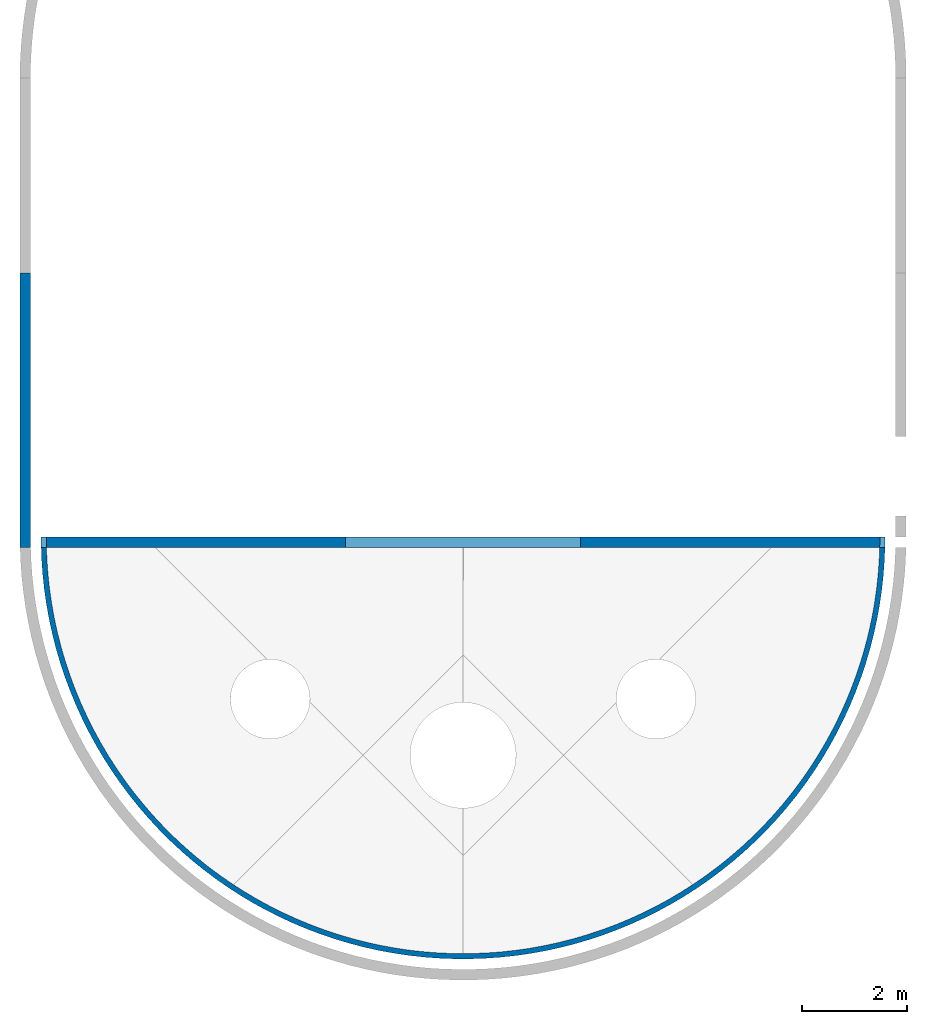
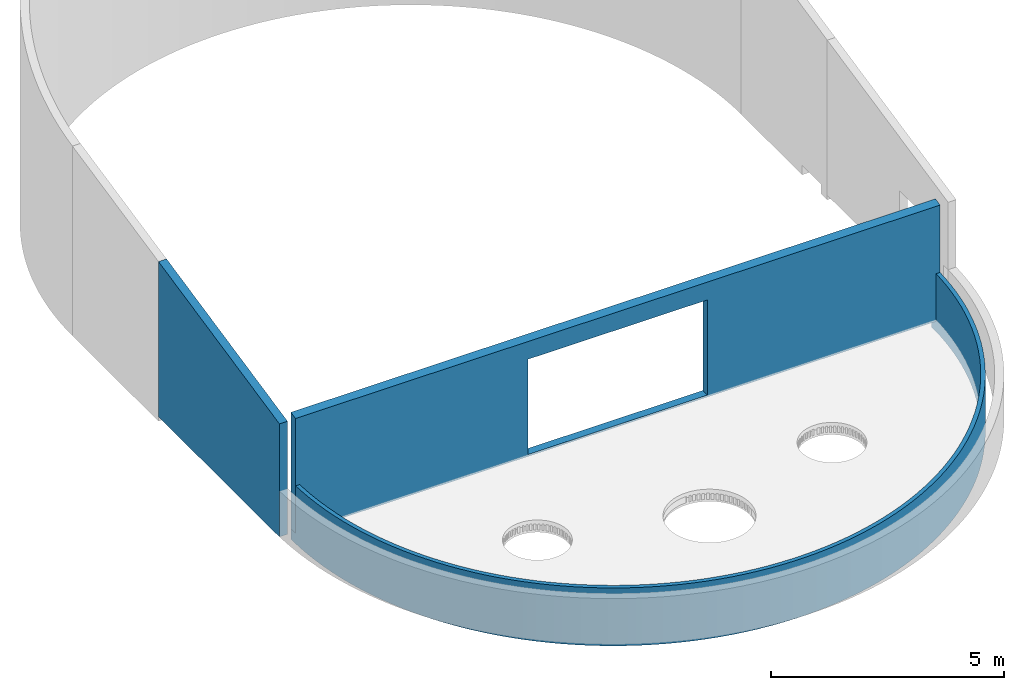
# One storey, part 8 of 10: 3 walls, 1 opening.
"""IFC4 building model written with IfcOpenShell, lengths in millimetres."""

from ifc_helpers import new_model, entity, si_unit, converted_unit, derived_unit, direction, frame, origin_with_axes, place, context, subcontext, project, spatial, polygons, material, constituent, constituent_set, type_object, element, save


model = new_model("IFC4")

# Units and contexts
model_context = context("Model", 3, precision=0.01, world=origin_with_axes(), true_north=direction((0.0, 1.0)))
body_context = subcontext(model_context, "Body", "Model", "MODEL_VIEW")
ifc_project = project(units=[si_unit("LENGTHUNIT", "METRE", prefix="MILLI"), si_unit("AREAUNIT", "SQUARE_METRE"), si_unit("VOLUMEUNIT", "CUBIC_METRE"), converted_unit("PLANEANGLEUNIT", "DEGREE", entity("IfcPlaneAngleMeasure", 0.0174532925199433), si_unit("PLANEANGLEUNIT", "RADIAN"), dimensions=[0, 0, 0, 0, 0, 0, 0]), converted_unit("TIMEUNIT", "Year", entity("IfcTimeMeasure", 31557600.0), si_unit("TIMEUNIT", "SECOND"), dimensions=[0, 0, 1, 0, 0, 0, 0]), si_unit("MASSUNIT", "GRAM", prefix="KILO"), si_unit("THERMODYNAMICTEMPERATUREUNIT", "DEGREE_CELSIUS"), si_unit("LUMINOUSINTENSITYUNIT", "LUMEN"), si_unit("ENERGYUNIT", "JOULE", prefix="MEGA"), derived_unit("THERMALCONDUCTANCEUNIT", [(si_unit("POWERUNIT", "WATT"), 1), (si_unit("LENGTHUNIT", "METRE"), -1), (si_unit("THERMODYNAMICTEMPERATUREUNIT", "KELVIN"), -1)]), derived_unit("SPECIFICHEATCAPACITYUNIT", [(si_unit("ENERGYUNIT", "JOULE"), 1), (si_unit("MASSUNIT", "GRAM", prefix="KILO"), -1), (si_unit("THERMODYNAMICTEMPERATUREUNIT", "KELVIN"), -1)]), derived_unit("MASSDENSITYUNIT", [(si_unit("MASSUNIT", "GRAM", prefix="KILO"), 1), (si_unit("VOLUMEUNIT", "CUBIC_METRE"), -1)])], contexts=[model_context])

# Site, building, storey
site_placement = place(None, origin_with_axes())
site = spatial("IfcSite", under=ifc_project, at=site_placement, Name="Exteriér", CompositionType="ELEMENT")
building_placement = place(site_placement, origin_with_axes())
building = spatial("IfcBuilding", under=site, at=building_placement, Name="Univerzitní lezecké centrum", CompositionType="ELEMENT")
storey_placement = place(building_placement, frame((0.0, 0.0, 9600.000000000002), z_axis=(0.0, 0.0, 1.0), x_axis=(1.0, 0.0, 0.0)))
storey = spatial("IfcBuildingStorey", under=building, at=storey_placement, Name="4.NP", CompositionType="ELEMENT", Elevation=9600.0)

# Wall, opening
ifc_material_1 = material(Name="Tepelná izolace - minerální vata - obvodová izolace")
ifc_constituent_1 = constituent(ifc_material_1, Name="Tepelná izolace - minerální vata - obvodová izolace")
ifc_constituent_set_1 = constituent_set(constituents=[ifc_constituent_1], Name="Obvodová tepelná izolace")
wall_type_1 = type_object("IfcWallType", Name="Obvodová tepelná izolace 200", PredefinedType="NOTDEFINED")
wall_1_placement = place(storey_placement, frame((-5750.148351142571, -299.9999999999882, -51.00000000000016), z_axis=(0.0, 0.0, 1.0), x_axis=(1.0, 0.0, 0.0)))
wall_1 = element("IfcWall", 1, at=wall_1_placement, inside=storey, type_object=wall_type_1, material=ifc_constituent_set_1, Name="St03", PredefinedType="NOTDEFINED", context=body_context, shape_type="Tessellation", body=[
    polygons([(202.0594851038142, -200.0000000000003, 0.0), (16197.33742363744, -200.0000000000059, 0.0), (16197.33742363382, -200.0000000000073, 1251.0), (16200.0, -200.0000000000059, 1251.0), (16200.0, -200.0000000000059, 3017.37703782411), (200.0000086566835, -200.0000000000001, 3017.37703782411), (199.9999999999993, -200.0000000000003, 1251.0), (202.0594851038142, -200.0000000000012, 1251.0), (5974.900487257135, -200.0000000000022, 51.00000000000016), (5974.900487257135, -200.0000000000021, 2551.0), (10424.90048725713, -200.0000000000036, 2551.0), (10424.90048725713, -200.0000000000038, 51.00000000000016), (199.9999999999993, -142.0078008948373, 0.0), (200.0000000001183, 0.0, 0.0), (16199.99999999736, 0.0, 0.0), (16200.0, 0.0, 1251.0), (16200.0, 0.0, 3059.888350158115), (200.0000183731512, 0.0, 3059.888350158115), (200.0000000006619, -142.0078008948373, 1251.0), (5974.900487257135, 0.0, 51.00000000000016), (5974.900487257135, 0.0, 2551.0), (10424.90048725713, 0.0, 2551.0), (10424.90048725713, 0.0, 51.00000000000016)], [[[1, 2, 3, 4, 5, 6, 7, 8], [9, 10, 11, 12]], [[1, 13, 14, 15, 2]], [[16, 3, 2, 15]], [[16, 4, 3]], [[17, 5, 4, 16]], [[17, 18, 6, 5]], [[18, 14, 13, 19, 7, 6]], [[7, 19, 8]], [[8, 19, 13, 1]], [[20, 21, 10, 9]], [[21, 22, 11, 10]], [[22, 23, 12, 11]], [[23, 20, 9, 12]], [[14, 18, 17, 16, 15], [20, 23, 22, 21]]], closed=True),
])
opening_placement = place(wall_1_placement, frame((8199.900487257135, 0.0, 51.00000000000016), z_axis=(0.0, 0.0, 1.0), x_axis=(1.0, 0.0, 0.0)))
element("IfcOpeningElement", 2, at=opening_placement, cuts=wall_1, context=body_context, identifier="Reference", shape_type="Tessellation", body=[
    polygons([(-2225.0, -201.0000000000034, 2500.0), (-2225.0, -201.0000000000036, 0.0), (2225.0, -201.0000000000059, 0.0), (2225.0, -201.0000000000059, 2500.0), (-2225.0, 1.000000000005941, 2500.0), (-2225.0, 1.000000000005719, 0.0), (2225.0, 1.000000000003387, 0.0), (2225.0, 1.000000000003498, 2500.0)], [[[1, 2, 3, 4]], [[5, 6, 2, 1]], [[6, 7, 3, 2]], [[7, 8, 4, 3]], [[8, 5, 1, 4]], [[7, 6, 5, 8]]], closed=True),
])

# Walls
ifc_constituent_2 = constituent(ifc_material_1, Name="Tepelná izolace - minerální vata - obvodová izolace")
ifc_constituent_set_2 = constituent_set(constituents=[ifc_constituent_2], Name="Obvodová tepelná izolace")
wall_2_placement = place(storey_placement, frame((-5750.148351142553, 4700.000000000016, 0.0), z_axis=(0.0, 0.0, 1.0), x_axis=(0.0, -1.0, 0.0)))
element("IfcWall", 3, at=wall_2_placement, inside=storey, type_object=wall_type_1, material=ifc_constituent_set_2, Name="St01", PredefinedType="NOTDEFINED", context=body_context, shape_type="Tessellation", body=[
    polygons([(0.0, -199.9999999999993, 0.0), (0.0, -199.9999847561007, 4071.671158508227), (0.0, 0.0, 4071.671158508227), (0.0, 0.0, 0.0), (5200.000000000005, -200.0000000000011, 1199.999999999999), (5200.000000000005, -199.9999847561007, 2966.37703782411), (5200.000000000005, -200.0000000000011, 0.0), (5200.000000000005, 6.213433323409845e-06, 2966.377037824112), (5200.000000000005, 0.0, 1199.999999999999), (5200.000000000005, 0.0, 0.0)], [[[1, 2, 3, 4]], [[5, 6, 2, 1, 7]], [[8, 3, 2, 6]], [[4, 3, 8, 9, 10]], [[1, 4, 10, 7]], [[9, 8, 6, 5]], [[7, 10, 9, 5]]], closed=True),
])
ifc_material_2 = material(Name="Tepelná izolace - PIR")
ifc_constituent_3 = constituent(ifc_material_2, Name="Tepelná izolace - PIR")
ifc_constituent_set_3 = constituent_set(constituents=[ifc_constituent_3], Name="Obvodová tepelná izolace - atika")
wall_type_2 = type_object("IfcWallType", Name="Obvodová tepelná izolace - atika 100", PredefinedType="NOTDEFINED")
wall_3_placement = place(storey_placement, frame((-5450.148351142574, -299.9999999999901, -320.0000000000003), z_axis=(0.0, 0.0, 1.0), x_axis=(0.0, -1.0, 0.0)))
element("IfcWall", 4, at=wall_3_placement, inside=storey, type_object=wall_type_2, material=ifc_constituent_set_3, Name="St01*", PredefinedType="NOTDEFINED", context=body_context, shape_type="Tessellation", body=[
    polygons([(141.0296489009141, 0.0, 269.0000000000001), (199.9999999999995, 2.106131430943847, 269.0000000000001), (199.9999999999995, 2.106131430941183, 1520.0), (422.9092257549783, 10.06735461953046, 1520.0), (422.9092257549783, 10.06735461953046, 0.0), (141.0296489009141, 0.0, 0.0), (0.0, -1.177191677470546e-06, 269.0000000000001), (0.0, -99.99999999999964, 269.0000000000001), (142.8148343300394, -100.0000000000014, 269.0000000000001), (199.9999999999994, -97.95762662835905, 269.0000000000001), (199.9999999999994, -97.95762662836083, 1520.0), (428.2625070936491, -89.80521051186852, 1520.0), (704.2498687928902, 30.18923453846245, 1520.0), (704.2498687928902, 30.18923453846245, 0.0), (142.8148343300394, -100.0000000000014, 0.0), (428.2625070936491, -89.80521051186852, 0.0), (0.0, -1.177192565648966e-06, 0.0), (0.0, -100.0000000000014, 0.0), (713.1644240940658, -69.42862325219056, 1520.0), (984.6930519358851, 60.33999746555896, 1520.0), (984.6930519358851, 60.33999746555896, 0.0), (713.1644240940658, -69.42862325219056, 0.0), (997.1575209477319, -38.89620509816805, 1520.0), (1263.881392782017, 100.4812208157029, 1520.0), (1263.881392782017, 100.4812208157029, 0.0), (997.1575209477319, -38.89620509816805, 0.0), (1279.879891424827, 1.753135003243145, 1520.0), (1541.459108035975, 150.5617506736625, 1520.0), (1541.459108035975, 150.5617506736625, 0.0), (1279.879891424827, 1.753135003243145, 0.0), (1560.971248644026, 52.46759561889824, 1520.0), (1817.072466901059, 210.5177669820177, 1520.0), (1817.072466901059, 210.5177669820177, 0.0), (1560.971248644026, 52.46759561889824, 0.0), (1840.073384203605, 113.1825488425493, 1520.0), (2090.370241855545, 280.2728648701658, 1520.0), (2090.370241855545, 280.2728648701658, 0.0), (1840.073384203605, 113.1825488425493, 0.0), (2116.830624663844, 183.8206226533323, 1520.0), (2361.00415623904, 359.738152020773, 1520.0), (2361.00415623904, 359.738152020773, 0.0), (2116.830624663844, 183.8206226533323, 0.0), (2390.890284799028, 264.291799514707, 1520.0), (2628.629328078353, 448.8123619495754, 1520.0), (2628.629328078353, 448.8123619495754, 0.0), (2390.890284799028, 264.291799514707, 0.0), (2661.903117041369, 354.4935310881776, 1520.0), (2892.904709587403, 547.3819830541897, 1520.0), (2892.904709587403, 547.3819830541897, 0.0), (2661.903117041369, 354.4935310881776, 0.0), (2929.523756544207, 454.310868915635, 1520.0), (3153.493521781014, 655.3214032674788, 1520.0), (3153.493521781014, 655.3214032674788, 0.0), (2929.523756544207, 454.310868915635, 0.0), (3193.41116129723, 563.6166109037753, 1520.0), (3410.063683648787, 772.4930701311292, 1520.0), (3410.063683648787, 772.4930701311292, 0.0), (3193.41116129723, 563.6166109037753, 0.0), (3453.229046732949, 682.2714634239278, 1520.0), (3662.28823534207, 898.7476660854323, 1520.0), (3662.28823534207, 898.7476660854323, 0.0), (3453.229046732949, 682.2714634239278, 0.0), (3708.646314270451, 810.1242188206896, 1520.0), (3909.845754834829, 1033.92429875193, 1520.0), (3909.845754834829, 1033.92429875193, 0.0), (3708.646314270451, 810.1242188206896, 0.0), (3959.337473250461, 947.0119481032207, 1520.0), (4152.420767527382, 1177.8507059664, 1520.0), (4152.420767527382, 1177.8507059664, 0.0), (3959.337473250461, 947.0119481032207, 0.0), (4204.983055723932, 1092.760208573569, 1520.0), (4389.704148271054, 1330.343475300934, 1520.0), (4389.704148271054, 1330.343475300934, 0.0), (4204.983055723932, 1092.760208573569, 0.0), (4445.270023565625, 1247.183266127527, 1520.0), (4621.393515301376, 1491.208277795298, 1520.0), (4621.393515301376, 1491.208277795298, 0.0), (4445.270023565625, 1247.183266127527, 0.0), (4679.892167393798, 1410.084331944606, 1520.0), (4847.193615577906, 1660.240115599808, 1520.0), (4847.193615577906, 1660.240115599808, 0.0), (4679.892167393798, 1410.084331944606, 0.0), (4908.550496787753, 1581.255813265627, 1520.0), (5066.816701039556, 1837.223583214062, 1520.0), (5066.816701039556, 1837.223583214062, 0.0), (4908.550496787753, 1581.255813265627, 0.0), (5130.95362130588, 1760.479577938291, 1520.0), (5279.982895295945, 2021.933141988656, 1520.0), (5279.982895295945, 2021.933141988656, 0.0), (5130.95362130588, 1760.479577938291, 0.0), (5346.818121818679, 1947.527232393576, 1520.0), (5486.42055028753, 2214.13340754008, 1520.0), (5486.42055028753, 2214.13340754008, 0.0), (5346.818121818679, 1947.527232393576, 0.0), (5555.868911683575, 2142.160412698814, 1520.0), (5685.866592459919, 2413.57944971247, 1520.0), (5685.866592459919, 2413.57944971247, 0.0), (5555.868911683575, 2142.160412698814, 0.0), (5757.839587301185, 2344.131088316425, 1520.0), (5878.066858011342, 2620.017104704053, 1520.0), (5878.066858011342, 2620.017104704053, 0.0), (5757.839587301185, 2344.131088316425, 0.0), (5952.472767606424, 2553.181878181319, 1520.0), (6062.776416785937, 2833.183298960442, 1520.0), (6062.776416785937, 2833.183298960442, 0.0), (5952.472767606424, 2553.181878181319, 0.0), (6139.520422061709, 2769.046378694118, 1520.0), (6239.759884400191, 3052.806384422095, 1520.0), (6239.759884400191, 3052.806384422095, 0.0), (6139.520422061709, 2769.046378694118, 0.0), (6318.744186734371, 2991.449503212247, 1520.0), (6408.791722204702, 3278.606484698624, 1520.0), (6408.791722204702, 3278.606484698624, 0.0), (6318.744186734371, 2991.449503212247, 0.0), (6489.915668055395, 3220.107832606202, 1520.0), (6569.656524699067, 3510.295851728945, 1520.0), (6569.656524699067, 3510.295851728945, 0.0), (6489.915668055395, 3220.107832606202, 0.0), (6652.816733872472, 3454.729976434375, 1520.0), (6722.1492940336, 3747.579232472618, 1520.0), (6722.1492940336, 3747.579232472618, 0.0), (6652.816733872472, 3454.729976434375, 0.0), (6807.239791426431, 3695.016944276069, 1520.0), (6866.07570124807, 3990.15424516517, 1520.0), (6866.07570124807, 3990.15424516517, 0.0), (6807.239791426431, 3695.016944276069, 0.0), (6952.98805189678, 3940.662526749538, 1520.0), (7001.252333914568, 4237.711764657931, 1520.0), (7001.252333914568, 4237.711764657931, 0.0), (6952.98805189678, 3940.662526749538, 0.0), (7089.875781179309, 4191.35368572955, 1520.0), (7127.50692986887, 4489.936316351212, 1520.0), (7127.50692986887, 4489.936316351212, 0.0), (7089.875781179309, 4191.35368572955, 0.0), (7217.728536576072, 4446.77095326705, 1520.0), (7244.678596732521, 4746.506478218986, 1520.0), (7244.678596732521, 4746.506478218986, 0.0), (7217.728536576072, 4446.77095326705, 0.0), (7336.383389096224, 4706.588838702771, 1520.0), (7352.61801694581, 5007.095290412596, 1520.0), (7352.61801694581, 5007.095290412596, 0.0), (7336.383389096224, 4706.588838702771, 0.0), (7445.689131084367, 4970.476243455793, 1520.0), (7451.187638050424, 5271.370671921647, 1520.0), (7451.187638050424, 5271.370671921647, 0.0), (7445.689131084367, 4970.476243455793, 0.0), (7545.506468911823, 5238.096882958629, 1520.0), (7540.261847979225, 5538.995843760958, 1520.0), (7540.261847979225, 5538.995843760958, 0.0), (7545.506468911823, 5238.096882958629, 0.0), (7635.708200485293, 5509.109715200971, 1520.0), (7619.727135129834, 5809.629758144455, 1520.0), (7619.727135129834, 5809.629758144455, 0.0), (7635.708200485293, 5509.109715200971, 0.0), (7716.179377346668, 5783.169375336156, 1520.0), (7689.482233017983, 6082.927533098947, 1520.0), (7689.482233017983, 6082.927533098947, 0.0), (7716.179377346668, 5783.169375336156, 0.0), (7786.817451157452, 6059.926615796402, 1520.0), (7749.438249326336, 6358.540891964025, 1520.0), (7749.438249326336, 6358.540891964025, 0.0), (7786.817451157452, 6059.926615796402, 0.0), (7847.532404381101, 6339.028751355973, 1520.0), (7799.518779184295, 6636.118607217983, 1520.0), (7799.518779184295, 6636.118607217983, 0.0), (7847.532404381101, 6339.028751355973, 0.0), (7898.246864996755, 6620.120108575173, 1520.0), (7839.660002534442, 6915.306948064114, 1520.0), (7839.660002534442, 6915.306948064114, 0.0), (7898.246864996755, 6620.120108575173, 0.0), (7938.896205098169, 6902.842479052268, 1520.0), (7869.810765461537, 7195.75013120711, 1520.0), (7869.810765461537, 7195.75013120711, 0.0), (7938.896205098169, 6902.842479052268, 0.0), (7969.42862325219, 7186.835575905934, 1520.0), (7889.932645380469, 7477.090774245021, 1520.0), (7889.932645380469, 7477.090774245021, 0.0), (7969.42862325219, 7186.835575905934, 0.0), (7989.805210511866, 7471.737492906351, 1520.0), (7900.0, 7758.970351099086, 1520.0), (7900.0, 7758.970351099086, 0.0), (7989.805210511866, 7471.737492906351, 0.0), (8000.0, 7757.18516566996, 1520.0), (7900.0, 8041.029648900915, 1520.0), (7900.0, 8041.029648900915, 0.0), (8000.0, 7757.18516566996, 0.0), (8000.0, 8042.814834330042, 1520.0), (7889.932645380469, 8322.90922575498, 1520.0), (7889.932645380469, 8322.90922575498, 0.0), (8000.0, 8042.814834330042, 0.0), (7989.805210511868, 8328.262507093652, 1520.0), (7869.810765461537, 8604.249868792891, 1520.0), (7869.810765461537, 8604.249868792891, 0.0), (7989.805210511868, 8328.262507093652, 0.0), (7969.42862325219, 8613.164424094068, 1520.0), (7839.660002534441, 8884.693051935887, 1520.0), (7839.660002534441, 8884.693051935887, 0.0), (7969.42862325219, 8613.164424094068, 0.0), (7938.896205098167, 8897.157520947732, 1520.0), (7799.518779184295, 9163.881392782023, 1520.0), (7799.518779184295, 9163.881392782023, 0.0), (7938.896205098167, 8897.157520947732, 0.0), (7898.246864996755, 9179.879891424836, 1520.0), (7749.438249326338, 9441.45910803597, 1520.0), (7749.438249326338, 9441.45910803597, 0.0), (7898.246864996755, 9179.879891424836, 0.0), (7847.532404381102, 9460.97124864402, 1520.0), (7689.482233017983, 9717.072466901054, 1520.0), (7689.482233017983, 9717.072466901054, 0.0), (7847.532404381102, 9460.97124864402, 0.0), (7786.817451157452, 9740.073384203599, 1520.0), (7619.727135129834, 9990.370241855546, 1520.0), (7619.727135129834, 9990.370241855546, 0.0), (7786.817451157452, 9740.073384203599, 0.0), (7716.179377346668, 10016.83062466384, 1520.0), (7540.261847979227, 10261.00415623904, 1520.0), (7540.261847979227, 10261.00415623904, 0.0), (7716.179377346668, 10016.83062466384, 0.0), (7635.708200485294, 10290.89028479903, 1520.0), (7451.187638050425, 10528.62932807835, 1520.0), (7451.187638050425, 10528.62932807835, 0.0), (7635.708200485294, 10290.89028479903, 0.0), (7545.506468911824, 10561.90311704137, 1520.0), (7352.61801694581, 10792.9047095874, 1520.0), (7352.61801694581, 10792.9047095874, 0.0), (7545.506468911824, 10561.90311704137, 0.0), (7445.689131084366, 10829.52375654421, 1520.0), (7244.678596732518, 11053.49352178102, 1520.0), (7244.678596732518, 11053.49352178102, 0.0), (7445.689131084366, 10829.52375654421, 0.0), (7336.383389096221, 11093.41116129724, 1520.0), (7127.506929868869, 11310.0636836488, 1520.0), (7127.506929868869, 11310.0636836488, 0.0), (7336.383389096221, 11093.41116129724, 0.0), (7217.72853657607, 11353.22904673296, 1520.0), (7001.252333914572, 11562.28823534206, 1520.0), (7001.252333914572, 11562.28823534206, 0.0), (7217.72853657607, 11353.22904673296, 0.0), (7089.875781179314, 11608.64631427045, 1520.0), (6866.075701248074, 11809.84575483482, 1520.0), (6866.075701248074, 11809.84575483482, 0.0), (7089.875781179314, 11608.64631427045, 0.0), (6952.988051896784, 11859.33747325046, 1520.0), (6722.1492940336, 12052.42076752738, 1520.0), (6722.1492940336, 12052.42076752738, 0.0), (6952.988051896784, 11859.33747325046, 0.0), (6807.239791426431, 12104.98305572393, 1520.0), (6569.656524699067, 12289.70414827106, 1520.0), (6569.656524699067, 12289.70414827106, 0.0), (6807.239791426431, 12104.98305572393, 0.0), (6652.816733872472, 12345.27002356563, 1520.0), (6408.791722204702, 12521.39351530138, 1520.0), (6408.791722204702, 12521.39351530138, 0.0), (6652.816733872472, 12345.27002356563, 0.0), (6489.915668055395, 12579.8921673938, 1520.0), (6239.759884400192, 12747.19361557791, 1520.0), (6239.759884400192, 12747.19361557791, 0.0), (6489.915668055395, 12579.8921673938, 0.0), (6318.744186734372, 12808.55049678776, 1520.0), (6062.776416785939, 12966.81670103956, 1520.0), (6062.776416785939, 12966.81670103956, 0.0), (6318.744186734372, 12808.55049678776, 0.0), (6139.520422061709, 13030.95362130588, 1520.0), (5878.066858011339, 13179.98289529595, 1520.0), (5878.066858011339, 13179.98289529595, 0.0), (6139.520422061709, 13030.95362130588, 0.0), (5952.472767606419, 13246.81812181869, 1520.0), (5685.866592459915, 13386.42055028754, 1520.0), (5685.866592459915, 13386.42055028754, 0.0), (5952.472767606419, 13246.81812181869, 0.0), (5757.83958730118, 13455.86891168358, 1520.0), (5486.420550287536, 13585.86659245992, 1520.0), (5486.420550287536, 13585.86659245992, 0.0), (5757.83958730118, 13455.86891168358, 0.0), (5555.86891168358, 13657.83958730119, 1520.0), (5279.982895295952, 13778.06685801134, 1520.0), (5279.982895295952, 13778.06685801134, 0.0), (5555.86891168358, 13657.83958730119, 0.0), (5346.818121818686, 13852.47276760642, 1520.0), (5066.816701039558, 13962.77641678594, 1520.0), (5066.816701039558, 13962.77641678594, 0.0), (5346.818121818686, 13852.47276760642, 0.0), (5130.953621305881, 14039.52042206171, 1520.0), (4847.193615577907, 14139.7598844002, 1520.0), (4847.193615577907, 14139.7598844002, 0.0), (5130.953621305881, 14039.52042206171, 0.0), (4908.550496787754, 14218.74418673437, 1520.0), (4621.393515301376, 14308.7917222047, 1520.0), (4621.393515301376, 14308.7917222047, 0.0), (4908.550496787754, 14218.74418673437, 0.0), (4679.892167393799, 14389.9156680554, 1520.0), (4389.704148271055, 14469.65652469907, 1520.0), (4389.704148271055, 14469.65652469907, 0.0), (4679.892167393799, 14389.9156680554, 0.0), (4445.270023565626, 14552.81673387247, 1520.0), (4152.420767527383, 14622.1492940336, 1520.0), (4152.420767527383, 14622.1492940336, 0.0), (4445.270023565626, 14552.81673387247, 0.0), (4204.983055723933, 14707.23979142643, 1520.0), (3909.845754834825, 14766.07570124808, 1520.0), (3909.845754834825, 14766.07570124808, 0.0), (4204.983055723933, 14707.23979142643, 0.0), (3959.337473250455, 14852.98805189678, 1520.0), (3662.288235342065, 14901.25233391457, 1520.0), (3662.288235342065, 14901.25233391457, 0.0), (3959.337473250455, 14852.98805189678, 0.0), (3708.646314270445, 14989.87578117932, 1520.0), (3410.063683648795, 15027.50692986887, 1520.0), (3410.063683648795, 15027.50692986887, 0.0), (3708.646314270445, 14989.87578117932, 0.0), (3453.229046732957, 15117.72853657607, 1520.0), (3153.493521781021, 15144.67859673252, 1520.0), (3153.493521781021, 15144.67859673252, 0.0), (3453.229046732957, 15117.72853657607, 0.0), (3193.411161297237, 15236.38338909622, 1520.0), (2892.904709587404, 15252.61801694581, 1520.0), (2892.904709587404, 15252.61801694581, 0.0), (3193.411161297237, 15236.38338909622, 0.0), (2929.523756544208, 15345.68913108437, 1520.0), (2628.629328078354, 15351.18763805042, 1520.0), (2628.629328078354, 15351.18763805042, 0.0), (2929.523756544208, 15345.68913108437, 0.0), (2661.903117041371, 15445.50646891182, 1520.0), (2361.004156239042, 15440.26184797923, 1520.0), (2361.004156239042, 15440.26184797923, 0.0), (2661.903117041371, 15445.50646891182, 0.0), (2390.890284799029, 15535.70820048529, 1520.0), (2090.370241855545, 15519.72713512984, 1520.0), (2090.370241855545, 15519.72713512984, 0.0), (2390.890284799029, 15535.70820048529, 0.0), (2116.830624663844, 15616.17937734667, 1520.0), (1817.072466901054, 15589.48223301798, 1520.0), (1817.072466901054, 15589.48223301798, 0.0), (2116.830624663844, 15616.17937734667, 0.0), (1840.073384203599, 15686.81745115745, 1520.0), (1541.459108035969, 15649.43824932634, 1520.0), (1541.459108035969, 15649.43824932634, 0.0), (1840.073384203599, 15686.81745115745, 0.0), (1560.97124864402, 15747.53240438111, 1520.0), (1263.881392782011, 15699.5187791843, 1520.0), (1263.881392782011, 15699.5187791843, 0.0), (1560.97124864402, 15747.53240438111, 0.0), (1279.879891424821, 15798.24686499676, 1520.0), (984.6930519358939, 15739.66000253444, 1520.0), (984.6930519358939, 15739.66000253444, 0.0), (1279.879891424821, 15798.24686499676, 0.0), (997.1575209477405, 15838.89620509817, 1520.0), (704.2498687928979, 15769.81076546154, 1520.0), (704.2498687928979, 15769.81076546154, 0.0), (997.1575209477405, 15838.89620509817, 0.0), (713.1644240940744, 15869.42862325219, 1520.0), (422.9092257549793, 15789.93264538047, 1520.0), (422.9092257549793, 15789.93264538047, 0.0), (713.1644240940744, 15869.42862325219, 0.0), (428.2625070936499, 15889.80521051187, 1520.0), (200.0000000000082, 15797.89386856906, 269.0000000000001), (141.0296489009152, 15800.0, 269.0000000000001), (141.0296489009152, 15800.0, 0.0), (200.0000000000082, 15797.89386856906, 1520.0), (428.2625070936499, 15889.80521051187, 0.0), (200.0000000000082, 15897.95762662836, 1520.0), (142.814834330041, 15900.0, 269.0000000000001), (0.0, 15900.0, 269.0000000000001), (0.0, 15800.0000011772, 269.0000000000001), (200.0000000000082, 15897.95762662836, 269.0000000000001), (0.0, 15800.0000011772, 0.0), (142.814834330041, 15900.0, 0.0), (0.0, 15900.0, 0.0)], [[[1, 2, 3, 4, 5, 6]], [[2, 1, 7, 8, 9, 10]], [[11, 3, 2, 10]], [[3, 11, 12, 4]], [[5, 4, 13, 14]], [[15, 6, 5, 16]], [[7, 1, 6, 17]], [[8, 7, 17, 18]], [[9, 8, 18, 15]], [[10, 9, 15, 16, 12, 11]], [[4, 12, 19, 13]], [[14, 13, 20, 21]], [[16, 5, 14, 22]], [[15, 18, 17, 6]], [[12, 16, 22, 19]], [[13, 19, 23, 20]], [[21, 20, 24, 25]], [[22, 14, 21, 26]], [[19, 22, 26, 23]], [[20, 23, 27, 24]], [[25, 24, 28, 29]], [[26, 21, 25, 30]], [[23, 26, 30, 27]], [[24, 27, 31, 28]], [[29, 28, 32, 33]], [[30, 25, 29, 34]], [[27, 30, 34, 31]], [[28, 31, 35, 32]], [[33, 32, 36, 37]], [[34, 29, 33, 38]], [[31, 34, 38, 35]], [[32, 35, 39, 36]], [[37, 36, 40, 41]], [[38, 33, 37, 42]], [[35, 38, 42, 39]], [[36, 39, 43, 40]], [[41, 40, 44, 45]], [[42, 37, 41, 46]], [[39, 42, 46, 43]], [[40, 43, 47, 44]], [[45, 44, 48, 49]], [[46, 41, 45, 50]], [[43, 46, 50, 47]], [[44, 47, 51, 48]], [[49, 48, 52, 53]], [[50, 45, 49, 54]], [[47, 50, 54, 51]], [[48, 51, 55, 52]], [[53, 52, 56, 57]], [[54, 49, 53, 58]], [[51, 54, 58, 55]], [[52, 55, 59, 56]], [[57, 56, 60, 61]], [[58, 53, 57, 62]], [[55, 58, 62, 59]], [[56, 59, 63, 60]], [[61, 60, 64, 65]], [[62, 57, 61, 66]], [[59, 62, 66, 63]], [[60, 63, 67, 64]], [[65, 64, 68, 69]], [[66, 61, 65, 70]], [[63, 66, 70, 67]], [[64, 67, 71, 68]], [[69, 68, 72, 73]], [[70, 65, 69, 74]], [[67, 70, 74, 71]], [[68, 71, 75, 72]], [[73, 72, 76, 77]], [[74, 69, 73, 78]], [[71, 74, 78, 75]], [[72, 75, 79, 76]], [[77, 76, 80, 81]], [[78, 73, 77, 82]], [[75, 78, 82, 79]], [[76, 79, 83, 80]], [[81, 80, 84, 85]], [[82, 77, 81, 86]], [[79, 82, 86, 83]], [[80, 83, 87, 84]], [[85, 84, 88, 89]], [[86, 81, 85, 90]], [[83, 86, 90, 87]], [[84, 87, 91, 88]], [[89, 88, 92, 93]], [[90, 85, 89, 94]], [[87, 90, 94, 91]], [[88, 91, 95, 92]], [[93, 92, 96, 97]], [[94, 89, 93, 98]], [[91, 94, 98, 95]], [[92, 95, 99, 96]], [[97, 96, 100, 101]], [[98, 93, 97, 102]], [[95, 98, 102, 99]], [[96, 99, 103, 100]], [[101, 100, 104, 105]], [[102, 97, 101, 106]], [[99, 102, 106, 103]], [[100, 103, 107, 104]], [[105, 104, 108, 109]], [[106, 101, 105, 110]], [[103, 106, 110, 107]], [[104, 107, 111, 108]], [[109, 108, 112, 113]], [[110, 105, 109, 114]], [[107, 110, 114, 111]], [[108, 111, 115, 112]], [[113, 112, 116, 117]], [[114, 109, 113, 118]], [[111, 114, 118, 115]], [[112, 115, 119, 116]], [[117, 116, 120, 121]], [[118, 113, 117, 122]], [[115, 118, 122, 119]], [[116, 119, 123, 120]], [[121, 120, 124, 125]], [[122, 117, 121, 126]], [[119, 122, 126, 123]], [[120, 123, 127, 124]], [[125, 124, 128, 129]], [[126, 121, 125, 130]], [[123, 126, 130, 127]], [[124, 127, 131, 128]], [[129, 128, 132, 133]], [[130, 125, 129, 134]], [[127, 130, 134, 131]], [[128, 131, 135, 132]], [[133, 132, 136, 137]], [[134, 129, 133, 138]], [[131, 134, 138, 135]], [[132, 135, 139, 136]], [[137, 136, 140, 141]], [[138, 133, 137, 142]], [[135, 138, 142, 139]], [[136, 139, 143, 140]], [[141, 140, 144, 145]], [[142, 137, 141, 146]], [[139, 142, 146, 143]], [[140, 143, 147, 144]], [[145, 144, 148, 149]], [[146, 141, 145, 150]], [[143, 146, 150, 147]], [[144, 147, 151, 148]], [[149, 148, 152, 153]], [[150, 145, 149, 154]], [[147, 150, 154, 151]], [[148, 151, 155, 152]], [[153, 152, 156, 157]], [[154, 149, 153, 158]], [[151, 154, 158, 155]], [[152, 155, 159, 156]], [[157, 156, 160, 161]], [[158, 153, 157, 162]], [[155, 158, 162, 159]], [[156, 159, 163, 160]], [[161, 160, 164, 165]], [[162, 157, 161, 166]], [[159, 162, 166, 163]], [[160, 163, 167, 164]], [[165, 164, 168, 169]], [[166, 161, 165, 170]], [[163, 166, 170, 167]], [[164, 167, 171, 168]], [[169, 168, 172, 173]], [[170, 165, 169, 174]], [[167, 170, 174, 171]], [[168, 171, 175, 172]], [[173, 172, 176, 177]], [[174, 169, 173, 178]], [[171, 174, 178, 175]], [[172, 175, 179, 176]], [[177, 176, 180, 181]], [[178, 173, 177, 182]], [[175, 178, 182, 179]], [[176, 179, 183, 180]], [[181, 180, 184, 185]], [[182, 177, 181, 186]], [[179, 182, 186, 183]], [[180, 183, 187, 184]], [[185, 184, 188, 189]], [[186, 181, 185, 190]], [[183, 186, 190, 187]], [[184, 187, 191, 188]], [[189, 188, 192, 193]], [[190, 185, 189, 194]], [[187, 190, 194, 191]], [[188, 191, 195, 192]], [[193, 192, 196, 197]], [[194, 189, 193, 198]], [[191, 194, 198, 195]], [[192, 195, 199, 196]], [[197, 196, 200, 201]], [[198, 193, 197, 202]], [[195, 198, 202, 199]], [[196, 199, 203, 200]], [[201, 200, 204, 205]], [[202, 197, 201, 206]], [[199, 202, 206, 203]], [[200, 203, 207, 204]], [[205, 204, 208, 209]], [[206, 201, 205, 210]], [[203, 206, 210, 207]], [[204, 207, 211, 208]], [[209, 208, 212, 213]], [[210, 205, 209, 214]], [[207, 210, 214, 211]], [[208, 211, 215, 212]], [[213, 212, 216, 217]], [[214, 209, 213, 218]], [[211, 214, 218, 215]], [[212, 215, 219, 216]], [[217, 216, 220, 221]], [[218, 213, 217, 222]], [[215, 218, 222, 219]], [[216, 219, 223, 220]], [[221, 220, 224, 225]], [[222, 217, 221, 226]], [[219, 222, 226, 223]], [[220, 223, 227, 224]], [[225, 224, 228, 229]], [[226, 221, 225, 230]], [[223, 226, 230, 227]], [[224, 227, 231, 228]], [[229, 228, 232, 233]], [[230, 225, 229, 234]], [[227, 230, 234, 231]], [[228, 231, 235, 232]], [[233, 232, 236, 237]], [[234, 229, 233, 238]], [[231, 234, 238, 235]], [[232, 235, 239, 236]], [[237, 236, 240, 241]], [[238, 233, 237, 242]], [[235, 238, 242, 239]], [[236, 239, 243, 240]], [[241, 240, 244, 245]], [[242, 237, 241, 246]], [[239, 242, 246, 243]], [[240, 243, 247, 244]], [[245, 244, 248, 249]], [[246, 241, 245, 250]], [[243, 246, 250, 247]], [[244, 247, 251, 248]], [[249, 248, 252, 253]], [[250, 245, 249, 254]], [[247, 250, 254, 251]], [[248, 251, 255, 252]], [[253, 252, 256, 257]], [[254, 249, 253, 258]], [[251, 254, 258, 255]], [[252, 255, 259, 256]], [[257, 256, 260, 261]], [[258, 253, 257, 262]], [[255, 258, 262, 259]], [[256, 259, 263, 260]], [[261, 260, 264, 265]], [[262, 257, 261, 266]], [[259, 262, 266, 263]], [[260, 263, 267, 264]], [[265, 264, 268, 269]], [[266, 261, 265, 270]], [[263, 266, 270, 267]], [[264, 267, 271, 268]], [[269, 268, 272, 273]], [[270, 265, 269, 274]], [[267, 270, 274, 271]], [[268, 271, 275, 272]], [[273, 272, 276, 277]], [[274, 269, 273, 278]], [[271, 274, 278, 275]], [[272, 275, 279, 276]], [[277, 276, 280, 281]], [[278, 273, 277, 282]], [[275, 278, 282, 279]], [[276, 279, 283, 280]], [[281, 280, 284, 285]], [[282, 277, 281, 286]], [[279, 282, 286, 283]], [[280, 283, 287, 284]], [[285, 284, 288, 289]], [[286, 281, 285, 290]], [[283, 286, 290, 287]], [[284, 287, 291, 288]], [[289, 288, 292, 293]], [[290, 285, 289, 294]], [[287, 290, 294, 291]], [[288, 291, 295, 292]], [[293, 292, 296, 297]], [[294, 289, 293, 298]], [[291, 294, 298, 295]], [[292, 295, 299, 296]], [[297, 296, 300, 301]], [[298, 293, 297, 302]], [[295, 298, 302, 299]], [[296, 299, 303, 300]], [[301, 300, 304, 305]], [[302, 297, 301, 306]], [[299, 302, 306, 303]], [[300, 303, 307, 304]], [[305, 304, 308, 309]], [[306, 301, 305, 310]], [[303, 306, 310, 307]], [[304, 307, 311, 308]], [[309, 308, 312, 313]], [[310, 305, 309, 314]], [[307, 310, 314, 311]], [[308, 311, 315, 312]], [[313, 312, 316, 317]], [[314, 309, 313, 318]], [[311, 314, 318, 315]], [[312, 315, 319, 316]], [[317, 316, 320, 321]], [[318, 313, 317, 322]], [[315, 318, 322, 319]], [[316, 319, 323, 320]], [[321, 320, 324, 325]], [[322, 317, 321, 326]], [[319, 322, 326, 323]], [[320, 323, 327, 324]], [[325, 324, 328, 329]], [[326, 321, 325, 330]], [[323, 326, 330, 327]], [[324, 327, 331, 328]], [[329, 328, 332, 333]], [[330, 325, 329, 334]], [[327, 330, 334, 331]], [[328, 331, 335, 332]], [[333, 332, 336, 337]], [[334, 329, 333, 338]], [[331, 334, 338, 335]], [[332, 335, 339, 336]], [[337, 336, 340, 341]], [[338, 333, 337, 342]], [[335, 338, 342, 339]], [[336, 339, 343, 340]], [[341, 340, 344, 345]], [[342, 337, 341, 346]], [[339, 342, 346, 343]], [[340, 343, 347, 344]], [[345, 344, 348, 349]], [[346, 341, 345, 350]], [[343, 346, 350, 347]], [[344, 347, 351, 348]], [[349, 348, 352, 353]], [[350, 345, 349, 354]], [[347, 350, 354, 351]], [[348, 351, 355, 352]], [[356, 357, 358, 353, 352, 359]], [[354, 349, 353, 360]], [[351, 354, 360, 355]], [[361, 359, 352, 355]], [[362, 363, 364, 357, 356, 365]], [[357, 364, 366, 358]], [[360, 353, 358, 367]], [[359, 361, 365, 356]], [[365, 361, 355, 360, 367, 362]], [[363, 362, 367, 368]], [[364, 363, 368, 366]], [[358, 366, 368, 367]]], closed=True),
])

save(model, "model.ifc")
